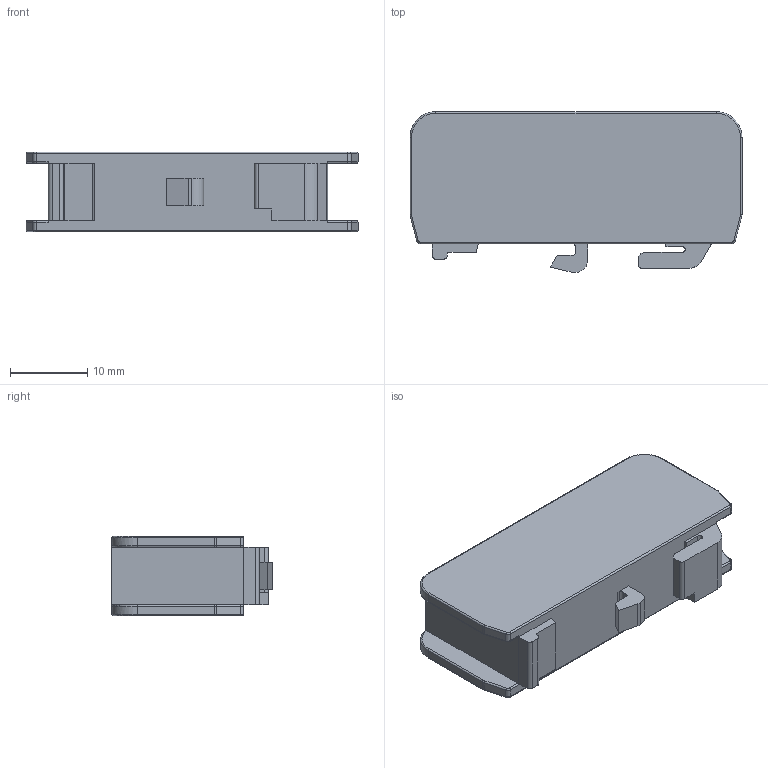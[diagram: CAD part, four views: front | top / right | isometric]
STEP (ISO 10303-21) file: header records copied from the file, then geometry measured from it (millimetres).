
FILE_DESCRIPTION (( 'STEP AP203' ), '1' );
FILE_NAME ('HN10.STEP', '2013-11-06T13:18:54', ( 'edv' ), ( '' ), 'SwSTEP 2.0', 'SolidWorks 2013', '' );
FILE_SCHEMA (( 'CONFIG_CONTROL_DESIGN' ));
Length unit declared in the file: millimetre
Products named in the file (1): HN10
Bounding box: 43 x 20.8 x 10.3 mm (x, y, z)
Volume: 6702.8 mm3; surface area: 3211.4 mm2
Topology: 1 solids, 1 shells, 146 faces, 361 edges, 222 vertices
Faces by surface type: plane 60, cylinder 58, torus 28
Entity records: 4384 total; most frequent: DIRECTION 781, CARTESIAN_POINT 774, ORIENTED_EDGE 722, EDGE_CURVE 361, AXIS2_PLACEMENT_3D 285, VERTEX_POINT 222, LINE 211, VECTOR 211
